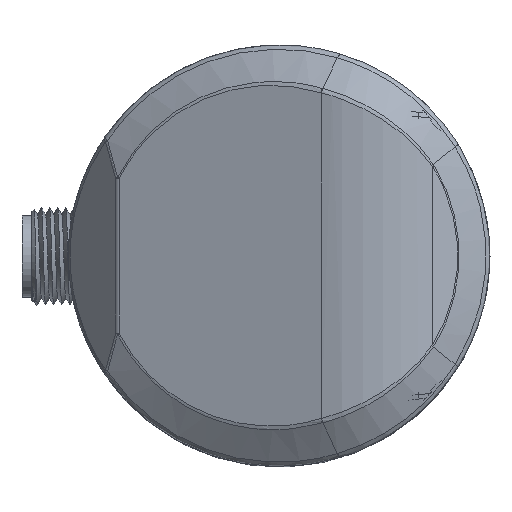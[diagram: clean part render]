
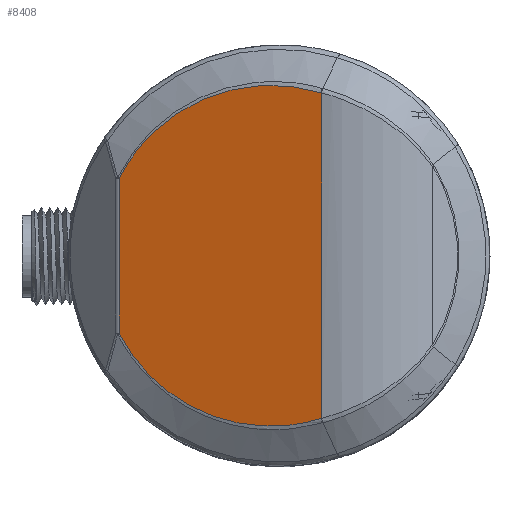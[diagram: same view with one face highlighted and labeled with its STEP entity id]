
A CAD part, top view. The second image highlights one B-rep face of the part: STEP entity #8408.
In plain terms, the highlighted planar face has unit normal (-0.342, 0, 0.94).
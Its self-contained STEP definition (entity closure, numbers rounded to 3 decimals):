
#2269=LINE('',#47411,#4189);
#2270=LINE('',#47428,#4190);
#4189=VECTOR('',#32609,1.);
#4190=VECTOR('',#32612,1.);
#5646=B_SPLINE_CURVE_WITH_KNOTS('',3,(#46626,#46627,#46628,#46629,#46630,
#46631),.UNSPECIFIED.,.F.,.F.,(4,2,4),(0.,0.5,1.),.UNSPECIFIED.);
#5648=B_SPLINE_CURVE_WITH_KNOTS('',3,(#46661,#46662,#46663,#46664,#46665,
#46666,#46667),.UNSPECIFIED.,.F.,.F.,(4,3,4),(0.,0.799,1.),
 .UNSPECIFIED.);
#5691=B_SPLINE_CURVE_WITH_KNOTS('',3,(#47413,#47414,#47415,#47416,#47417,
#47418),.UNSPECIFIED.,.F.,.F.,(4,2,4),(0.,0.5,1.),.UNSPECIFIED.);
#5692=B_SPLINE_CURVE_WITH_KNOTS('',3,(#47420,#47421,#47422,#47423,#47424,
#47425,#47426),.UNSPECIFIED.,.F.,.F.,(4,3,4),(0.,0.238,1.),
 .UNSPECIFIED.);
#6826=FACE_OUTER_BOUND('',#11147,.T.);
#8408=ADVANCED_FACE('',(#6826),#9240,.T.);
#9240=PLANE('',#26554);
#11147=EDGE_LOOP('',(#17784,#17785,#17786,#17787,#17788,#17789));
#17784=ORIENTED_EDGE('',*,*,#23626,.T.);
#17785=ORIENTED_EDGE('',*,*,#23627,.T.);
#17786=ORIENTED_EDGE('',*,*,#23628,.T.);
#17787=ORIENTED_EDGE('',*,*,#23629,.T.);
#17788=ORIENTED_EDGE('',*,*,#23487,.T.);
#17789=ORIENTED_EDGE('',*,*,#23485,.T.);
#20164=VERTEX_POINT('',#46592);
#20167=VERTEX_POINT('',#46625);
#20168=VERTEX_POINT('',#46632);
#20268=VERTEX_POINT('',#47410);
#20269=VERTEX_POINT('',#47419);
#20270=VERTEX_POINT('',#47427);
#23485=EDGE_CURVE('',#20168,#20167,#5646,.T.);
#23487=EDGE_CURVE('',#20164,#20168,#5648,.T.);
#23626=EDGE_CURVE('',#20167,#20268,#2269,.T.);
#23627=EDGE_CURVE('',#20268,#20269,#5691,.T.);
#23628=EDGE_CURVE('',#20269,#20270,#5692,.T.);
#23629=EDGE_CURVE('',#20270,#20164,#2270,.T.);
#26554=AXIS2_PLACEMENT_3D('',#47429,#32613,#32614);
#32609=DIRECTION('',(0.,-1.,0.));
#32612=DIRECTION('',(0.,1.,0.));
#32613=DIRECTION('',(-0.342,0.,0.94));
#32614=DIRECTION('',(0.94,0.,0.342));
#46592=CARTESIAN_POINT('',(-6.84,-10.925,1.277));
#46625=CARTESIAN_POINT('',(-31.813,-21.471,-7.812));
#46626=CARTESIAN_POINT('',(-6.916,-10.904,1.249));
#46627=CARTESIAN_POINT('',(-11.586,-9.474,-0.45));
#46628=CARTESIAN_POINT('',(-16.612,-9.717,-2.279));
#46629=CARTESIAN_POINT('',(-25.656,-13.465,-5.571));
#46630=CARTESIAN_POINT('',(-29.495,-16.919,-6.968));
#46631=CARTESIAN_POINT('',(-31.813,-21.471,-7.812));
#46632=CARTESIAN_POINT('',(-6.917,-10.904,1.249));
#46661=CARTESIAN_POINT('',(-6.84,-10.925,1.277));
#46662=CARTESIAN_POINT('',(-6.861,-10.919,1.27));
#46663=CARTESIAN_POINT('',(-6.881,-10.914,1.262));
#46664=CARTESIAN_POINT('',(-6.901,-10.908,1.255));
#46665=CARTESIAN_POINT('',(-6.906,-10.907,1.253));
#46666=CARTESIAN_POINT('',(-6.911,-10.906,1.251));
#46667=CARTESIAN_POINT('',(-6.917,-10.904,1.249));
#47410=CARTESIAN_POINT('',(-31.813,-40.529,-7.812));
#47411=CARTESIAN_POINT('',(-31.813,-40.266,-7.812));
#47413=CARTESIAN_POINT('',(-31.813,-40.529,-7.812));
#47414=CARTESIAN_POINT('',(-29.494,-45.081,-6.968));
#47415=CARTESIAN_POINT('',(-25.614,-48.563,-5.556));
#47416=CARTESIAN_POINT('',(-16.573,-52.288,-2.265));
#47417=CARTESIAN_POINT('',(-11.588,-52.526,-0.451));
#47418=CARTESIAN_POINT('',(-6.916,-51.096,1.249));
#47419=CARTESIAN_POINT('',(-6.917,-51.096,1.249));
#47420=CARTESIAN_POINT('',(-6.917,-51.096,1.249));
#47421=CARTESIAN_POINT('',(-6.911,-51.094,1.252));
#47422=CARTESIAN_POINT('',(-6.904,-51.093,1.254));
#47423=CARTESIAN_POINT('',(-6.898,-51.091,1.256));
#47424=CARTESIAN_POINT('',(-6.879,-51.086,1.263));
#47425=CARTESIAN_POINT('',(-6.86,-51.081,1.27));
#47426=CARTESIAN_POINT('',(-6.84,-51.075,1.277));
#47427=CARTESIAN_POINT('',(-6.84,-51.075,1.277));
#47428=CARTESIAN_POINT('',(-6.84,-7.975,1.277));
#47429=CARTESIAN_POINT('',(-18.544,-31.,-2.983));
